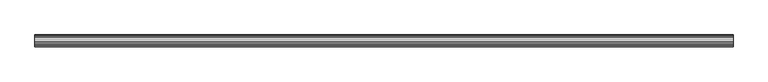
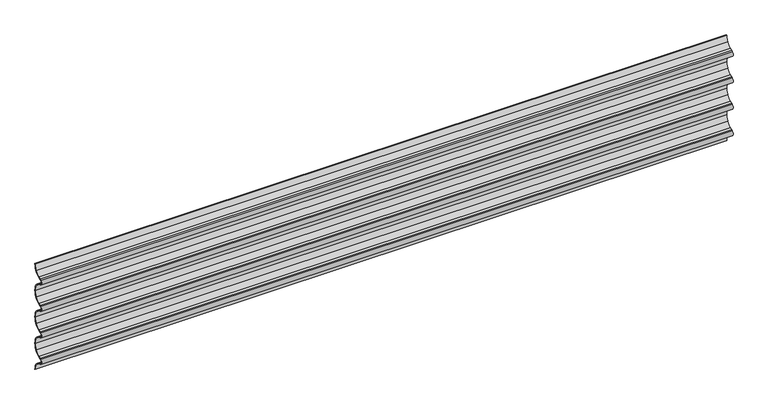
"""IFC4 building model written with IfcOpenShell, lengths in millimetres: plate geometry, Regolare Horizontal 356 : Regolare Horizontal 356."""

from ifc_helpers import new_model, si_unit, point, frame, frame_2d, origin, place, context, project, spatial, polyline, circle_curve, trimmed, segment, composite_curve, outline, extrude, source, transform, mapped, element, save


def plate_14de64b7(model_context):
    return source(origin(), model_context, "Body", "SweptSolid", [
        extrude(outline(composite_curve([segment(trimmed(circle_curve(frame_2d((-38.4503244, 356.2059563)), 37.4503244), [point((-6.5021495, 336.6652062))], [point((-1.0, 356.2059563))], True, "CARTESIAN"), True, "CONTINUOUS"), segment(polyline([(-1.0, 356.2059563), (0.0, 356.2059563)]), True, "CONTINUOUS"), segment(trimmed(circle_curve(frame_2d((-38.4503244, 356.2059563)), 38.4503244), [point((0.0, 356.2059563))], [point((-5.6490681, 336.1434283))], False, "CARTESIAN"), True, "CONTINUOUS"), segment(trimmed(circle_curve(frame_2d((-32.6206681, 352.6403111)), 31.6166783), [point((-5.6490681, 336.1434283))], [point((-20.878867, 323.2848269))], False, "CARTESIAN"), True, "CONTINUOUS"), segment(polyline([(-20.878867, 323.2848269), (-28.0423924, 320.4156051), (-31.4771017, 318.7692514)]), True, "CONTINUOUS"), segment(trimmed(circle_curve(frame_2d((-28.0791236, 311.6802118)), 7.8613445), [point((-31.4771017, 318.7692514))], [point((-31.4771017, 304.5911721))], True, "CARTESIAN"), True, "CONTINUOUS"), segment(polyline([(-31.4771017, 304.5911721), (-28.0423924, 302.9448184), (-20.878867, 300.0755967)]), True, "CONTINUOUS"), segment(trimmed(circle_curve(frame_2d((-32.6206681, 270.7201125)), 31.6166783), [point((-20.878867, 300.0755967))], [point((-5.6490681, 287.2169952))], False, "CARTESIAN"), True, "CONTINUOUS"), segment(trimmed(circle_curve(frame_2d((-38.4503244, 267.1544672)), 38.4503244), [point((-5.6490681, 287.2169952))], [point((0.0, 267.1544672))], False, "CARTESIAN"), True, "CONTINUOUS"), segment(trimmed(circle_curve(frame_2d((-38.4503244, 267.1544672)), 38.4503244), [point((0.0, 267.1544672))], [point((-5.6490681, 247.0919392))], False, "CARTESIAN"), True, "CONTINUOUS"), segment(trimmed(circle_curve(frame_2d((-32.6206681, 263.588822)), 31.6166783), [point((-5.6490681, 247.0919392))], [point((-20.878867, 234.2333378))], False, "CARTESIAN"), True, "CONTINUOUS"), segment(polyline([(-20.878867, 234.2333378), (-28.0423924, 231.3641161), (-31.4771017, 229.7177623)]), True, "CONTINUOUS"), segment(trimmed(circle_curve(frame_2d((-28.0791236, 222.6287227)), 7.8613445), [point((-31.4771017, 229.7177623))], [point((-31.4771017, 215.5396831))], True, "CARTESIAN"), True, "CONTINUOUS"), segment(polyline([(-31.4771017, 215.5396831), (-28.0423924, 213.8933293), (-20.878867, 211.0241076)]), True, "CONTINUOUS"), segment(trimmed(circle_curve(frame_2d((-32.6206681, 181.6686234)), 31.6166783), [point((-20.878867, 211.0241076))], [point((-5.6490681, 198.1655062))], False, "CARTESIAN"), True, "CONTINUOUS"), segment(trimmed(circle_curve(frame_2d((-38.4503244, 178.1029782)), 38.4503244), [point((-5.6490681, 198.1655062))], [point((0.0, 178.1029782))], False, "CARTESIAN"), True, "CONTINUOUS"), segment(trimmed(circle_curve(frame_2d((-38.4503244, 178.1029782)), 38.4503244), [point((0.0, 178.1029782))], [point((-5.6490681, 158.0404502))], False, "CARTESIAN"), True, "CONTINUOUS"), segment(trimmed(circle_curve(frame_2d((-32.6206681, 174.5373329)), 31.6166783), [point((-5.6490681, 158.0404502))], [point((-20.878867, 145.1818487))], False, "CARTESIAN"), True, "CONTINUOUS"), segment(polyline([(-20.878867, 145.1818487), (-28.0423924, 142.312627), (-31.4771017, 140.6662733)]), True, "CONTINUOUS"), segment(trimmed(circle_curve(frame_2d((-28.0791236, 133.5772336)), 7.8613445), [point((-31.4771017, 140.6662733))], [point((-31.4771017, 126.488194))], True, "CARTESIAN"), True, "CONTINUOUS"), segment(polyline([(-31.4771017, 126.488194), (-28.0423924, 124.8418403), (-20.878867, 121.9726185)]), True, "CONTINUOUS"), segment(trimmed(circle_curve(frame_2d((-32.6206681, 92.6171343)), 31.6166783), [point((-20.878867, 121.9726185))], [point((-5.6490681, 109.1140171))], False, "CARTESIAN"), True, "CONTINUOUS"), segment(trimmed(circle_curve(frame_2d((-38.4503244, 89.0514891)), 38.4503244), [point((-5.6490681, 109.1140171))], [point((0.0, 89.0514891))], False, "CARTESIAN"), True, "CONTINUOUS"), segment(trimmed(circle_curve(frame_2d((-38.4503244, 89.0514891)), 38.4503244), [point((0.0, 89.0514891))], [point((-5.6490681, 68.9889611))], False, "CARTESIAN"), True, "CONTINUOUS"), segment(trimmed(circle_curve(frame_2d((-32.6206681, 85.4858438)), 31.6166783), [point((-5.6490681, 68.9889611))], [point((-20.878867, 56.1303596))], False, "CARTESIAN"), True, "CONTINUOUS"), segment(polyline([(-20.878867, 56.1303596), (-28.0423924, 53.2611379), (-31.4771017, 51.6147842)]), True, "CONTINUOUS"), segment(trimmed(circle_curve(frame_2d((-28.0791236, 44.5257445)), 7.8613445), [point((-31.4771017, 51.6147842))], [point((-31.4771017, 37.4367049))], True, "CARTESIAN"), True, "CONTINUOUS"), segment(polyline([(-31.4771017, 37.4367049), (-28.0423924, 35.7903512), (-20.878867, 32.9211295)]), True, "CONTINUOUS"), segment(trimmed(circle_curve(frame_2d((-32.6206681, 3.5656452)), 31.6166783), [point((-20.878867, 32.9211295))], [point((-5.6490681, 20.062528))], False, "CARTESIAN"), True, "CONTINUOUS"), segment(trimmed(circle_curve(frame_2d((-38.4503244, 0.0)), 38.4503244), [point((-5.6490681, 20.062528))], [point((0.0, 0.0))], False, "CARTESIAN"), True, "CONTINUOUS"), segment(polyline([(0.0, 0.0), (-1.0, 0.0)]), True, "CONTINUOUS"), segment(trimmed(circle_curve(frame_2d((-38.4503244, 0.0)), 37.4503244), [point((-1.0, 0.0))], [point((-6.5021495, 19.5407501))], True, "CARTESIAN"), True, "CONTINUOUS"), segment(trimmed(circle_curve(frame_2d((-32.6206681, 3.5656452)), 30.6166783), [point((-6.5021495, 19.5407501))], [point((-21.2504634, 31.9927351))], True, "CARTESIAN"), True, "CONTINUOUS"), segment(polyline([(-21.2504634, 31.9927351), (-28.4448583, 34.874321), (-31.9093405, 36.5349457)]), True, "CONTINUOUS"), segment(trimmed(circle_curve(frame_2d((-28.0791236, 44.5257445)), 8.8613445), [point((-31.9093405, 36.5349457))], [point((-31.9093405, 52.5165434))], False, "CARTESIAN"), True, "CONTINUOUS"), segment(polyline([(-31.9093405, 52.5165434), (-28.4448583, 54.1771681), (-21.2504634, 57.058754)]), True, "CONTINUOUS"), segment(trimmed(circle_curve(frame_2d((-32.6206681, 85.4858438)), 30.6166783), [point((-21.2504634, 57.058754))], [point((-6.5021495, 69.5107389))], True, "CARTESIAN"), True, "CONTINUOUS"), segment(trimmed(circle_curve(frame_2d((-38.4503244, 89.0514891)), 37.4503244), [point((-6.5021495, 69.5107389))], [point((-1.0, 89.0514891))], True, "CARTESIAN"), True, "CONTINUOUS"), segment(trimmed(circle_curve(frame_2d((-38.4503244, 89.0514891)), 37.4503244), [point((-1.0, 89.0514891))], [point((-6.5021495, 108.5922392))], True, "CARTESIAN"), True, "CONTINUOUS"), segment(trimmed(circle_curve(frame_2d((-32.6206681, 92.6171343)), 30.6166783), [point((-6.5021495, 108.5922392))], [point((-21.2504634, 121.0442242))], True, "CARTESIAN"), True, "CONTINUOUS"), segment(polyline([(-21.2504634, 121.0442242), (-28.4448583, 123.9258101), (-31.9093405, 125.5864348)]), True, "CONTINUOUS"), segment(trimmed(circle_curve(frame_2d((-28.0791236, 133.5772336)), 8.8613445), [point((-31.9093405, 125.5864348))], [point((-31.9093405, 141.5680324))], False, "CARTESIAN"), True, "CONTINUOUS"), segment(polyline([(-31.9093405, 141.5680324), (-28.4448583, 143.2286572), (-21.2504634, 146.1102431)]), True, "CONTINUOUS"), segment(trimmed(circle_curve(frame_2d((-32.6206681, 174.5373329)), 30.6166783), [point((-21.2504634, 146.1102431))], [point((-6.5021495, 158.562228))], True, "CARTESIAN"), True, "CONTINUOUS"), segment(trimmed(circle_curve(frame_2d((-38.4503244, 178.1029782)), 37.4503244), [point((-6.5021495, 158.562228))], [point((-1.0, 178.1029782))], True, "CARTESIAN"), True, "CONTINUOUS"), segment(trimmed(circle_curve(frame_2d((-38.4503244, 178.1029782)), 37.4503244), [point((-1.0, 178.1029782))], [point((-6.5021495, 197.6437283))], True, "CARTESIAN"), True, "CONTINUOUS"), segment(trimmed(circle_curve(frame_2d((-32.6206681, 181.6686234)), 30.6166783), [point((-6.5021495, 197.6437283))], [point((-21.2504634, 210.0957133))], True, "CARTESIAN"), True, "CONTINUOUS"), segment(polyline([(-21.2504634, 210.0957133), (-28.4448583, 212.9772992), (-31.9093405, 214.6379239)]), True, "CONTINUOUS"), segment(trimmed(circle_curve(frame_2d((-28.0791236, 222.6287227)), 8.8613445), [point((-31.9093405, 214.6379239))], [point((-31.9093405, 230.6195215))], False, "CARTESIAN"), True, "CONTINUOUS"), segment(polyline([(-31.9093405, 230.6195215), (-28.4448583, 232.2801463), (-21.2504634, 235.1617322)]), True, "CONTINUOUS"), segment(trimmed(circle_curve(frame_2d((-32.6206681, 263.588822)), 30.6166783), [point((-21.2504634, 235.1617322))], [point((-6.5021495, 247.6137171))], True, "CARTESIAN"), True, "CONTINUOUS"), segment(trimmed(circle_curve(frame_2d((-38.4503244, 267.1544672)), 37.4503244), [point((-6.5021495, 247.6137171))], [point((-1.0, 267.1544672))], True, "CARTESIAN"), True, "CONTINUOUS"), segment(trimmed(circle_curve(frame_2d((-38.4503244, 267.1544672)), 37.4503244), [point((-1.0, 267.1544672))], [point((-6.5021495, 286.6952174))], True, "CARTESIAN"), True, "CONTINUOUS"), segment(trimmed(circle_curve(frame_2d((-32.6206681, 270.7201125)), 30.6166783), [point((-6.5021495, 286.6952174))], [point((-21.2504634, 299.1472023))], True, "CARTESIAN"), True, "CONTINUOUS"), segment(polyline([(-21.2504634, 299.1472023), (-28.4448583, 302.0287882), (-31.9093405, 303.689413)]), True, "CONTINUOUS"), segment(trimmed(circle_curve(frame_2d((-28.0791236, 311.6802118)), 8.8613445), [point((-31.9093405, 303.689413))], [point((-31.9093405, 319.6710106))], False, "CARTESIAN"), True, "CONTINUOUS"), segment(polyline([(-31.9093405, 319.6710106), (-28.4448583, 321.3316353), (-21.2504634, 324.2132212)]), True, "CONTINUOUS"), segment(trimmed(circle_curve(frame_2d((-32.6206681, 352.6403111)), 30.6166783), [point((-21.2504634, 324.2132212))], [point((-6.5021495, 336.6652062))], True, "CARTESIAN"), True, "CONTINUOUS")], self_intersect=False)), frame((-1100.0, 0.0, 0.0), z_axis=(1.0, 0.0, 0.0), x_axis=(0.0, 1.0, 0.0)), (0.0, 0.0, 1.0), 2200.0),
    ])


if __name__ == "__main__":
    model = new_model("IFC4")
    model_context = context("Model", 3, world=origin())
    ifc_project = project(units=[si_unit("LENGTHUNIT", "METRE", prefix="MILLI")], contexts=[model_context])
    site = spatial("IfcSite", under=ifc_project)
    building = spatial("IfcBuilding", under=site)
    placement = place(None, origin())
    plate_shape = plate_14de64b7(model_context)
    element("IfcPlate", 1, ObjectType="Regolare Horizontal 356 : Regolare Horizontal 356", at=placement, inside=building, context=model_context, shape_type="MappedRepresentation", body=[
        mapped(plate_shape, transform((0.0, 0.0, 0.0), x_axis=(1.0, 0.0, 0.0), y_axis=(0.0, 1.0, 0.0), z_axis=(0.0, 0.0, 1.0))),
    ])
    save(model, "model.ifc")
